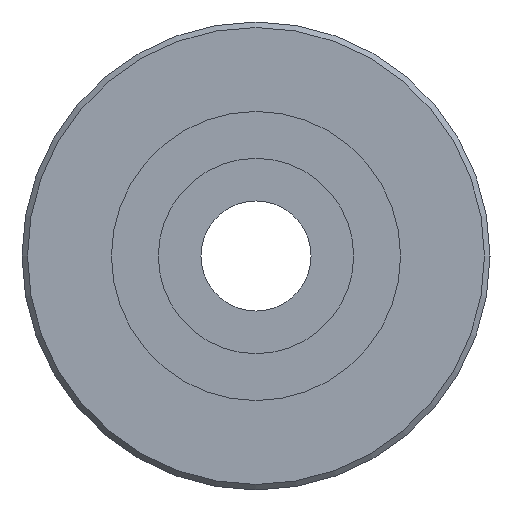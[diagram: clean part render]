
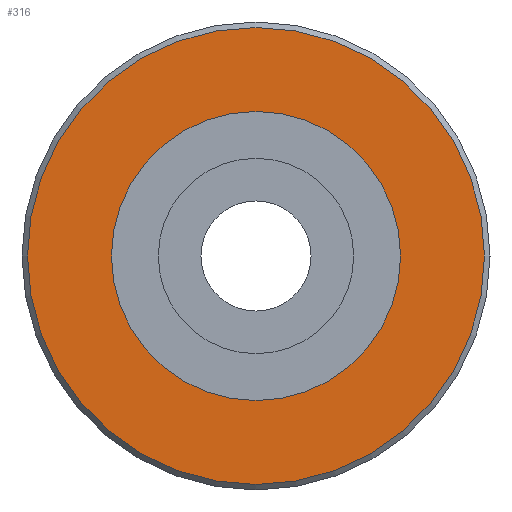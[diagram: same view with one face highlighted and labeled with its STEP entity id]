
A CAD part, left-side view. The second image highlights one B-rep face of the part: STEP entity #316.
In plain terms, the highlighted planar face has unit normal (-1, 0, 0).
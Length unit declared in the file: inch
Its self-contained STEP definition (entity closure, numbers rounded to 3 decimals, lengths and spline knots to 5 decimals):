
#289=CARTESIAN_POINT('',(10.75,18.3,0.));
#290=VERTEX_POINT('',#289);
#291=CARTESIAN_POINT('',(10.75,10.,0.));
#292=DIRECTION('',(-1.,0.,0.));
#293=DIRECTION('',(0.,1.,0.));
#294=AXIS2_PLACEMENT_3D('',#291,#292,#293);
#295=CIRCLE('',#294,8.3);
#296=EDGE_CURVE('',#290,#290,#295,.T.);
#297=ORIENTED_EDGE('',*,*,#296,.T.);
#298=EDGE_LOOP('',(#297));
#299=FACE_OUTER_BOUND('',#298,.T.);
#300=CARTESIAN_POINT('',(10.75,15.25,0.));
#301=VERTEX_POINT('',#300);
#302=CARTESIAN_POINT('',(10.75,10.,0.));
#303=DIRECTION('',(-1.,0.,0.));
#304=DIRECTION('',(0.,1.,0.));
#305=AXIS2_PLACEMENT_3D('',#302,#303,#304);
#306=CIRCLE('',#305,5.25);
#307=EDGE_CURVE('',#301,#301,#306,.T.);
#308=ORIENTED_EDGE('',*,*,#307,.F.);
#309=EDGE_LOOP('',(#308));
#310=FACE_BOUND('',#309,.T.);
#311=CARTESIAN_POINT('',(10.75,16.775,0.));
#312=DIRECTION('',(-1.,0.,0.));
#313=DIRECTION('',(0.,1.,0.));
#314=AXIS2_PLACEMENT_3D('',#311,#312,#313);
#315=PLANE('',#314);
#316=ADVANCED_FACE('',(#299,#310),#315,.T.);
